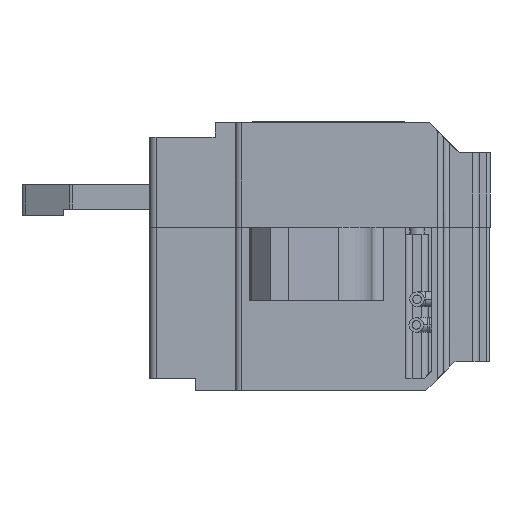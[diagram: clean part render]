
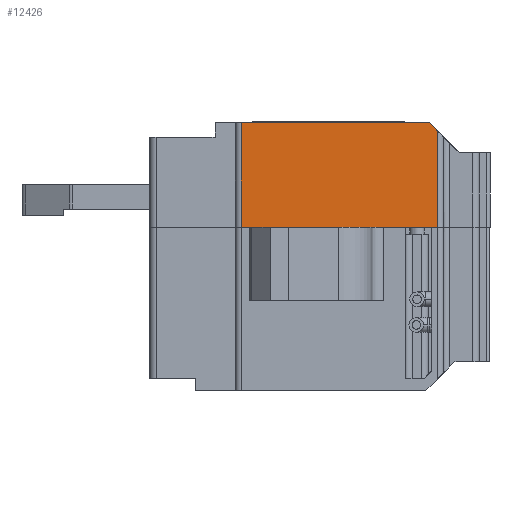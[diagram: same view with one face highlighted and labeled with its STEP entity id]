
A CAD part, left-side view. The second image highlights one B-rep face of the part: STEP entity #12426.
In plain terms, the highlighted planar face has unit normal (-1, 0, 0) as drawn and (1, 0, 0) by its records, which use the part's own axes.
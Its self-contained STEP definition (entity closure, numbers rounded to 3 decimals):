
#830 = EDGE_CURVE ( 'NONE', #3392, #2041, #14211, .T. ) ;
#1051 = VERTEX_POINT ( 'NONE', #1076 ) ;
#1076 = CARTESIAN_POINT ( 'NONE',  ( 31.5, -9.463, 8.6 ) ) ;
#1258 = CARTESIAN_POINT ( 'NONE',  ( 31.5, -1.663, 0. ) ) ;
#1499 = ORIENTED_EDGE ( 'NONE', *, *, #3156, .F. ) ;
#2007 = DIRECTION ( 'NONE',  ( 0., 1., 0. ) ) ;
#2041 = VERTEX_POINT ( 'NONE', #11148 ) ;
#2068 = CARTESIAN_POINT ( 'NONE',  ( 31.5, -9.631, 1.385 ) ) ;
#2087 = VECTOR ( 'NONE', #11727, 1000. ) ;
#2099 = EDGE_CURVE ( 'NONE', #2041, #3177, #14238, .T. ) ;
#2936 = ORIENTED_EDGE ( 'NONE', *, *, #5044, .T. ) ;
#3156 = EDGE_CURVE ( 'NONE', #5446, #1051, #18827, .T. ) ;
#3177 = VERTEX_POINT ( 'NONE', #9569 ) ;
#3299 = FACE_OUTER_BOUND ( 'NONE', #3565, .T. ) ;
#3392 = VERTEX_POINT ( 'NONE', #16008 ) ;
#3565 = EDGE_LOOP ( 'NONE', ( #1499, #12823, #13057, #5030, #9878, #14877, #10806, #2936, #18593 ) ) ;
#4024 = VERTEX_POINT ( 'NONE', #6619 ) ;
#4076 = LINE ( 'NONE', #2068, #11556 ) ;
#4316 = VERTEX_POINT ( 'NONE', #14680 ) ;
#4623 = EDGE_CURVE ( 'NONE', #4024, #18686, #14981, .T. ) ;
#4964 = DIRECTION ( 'NONE',  ( 0., 0.023, -1. ) ) ;
#5030 = ORIENTED_EDGE ( 'NONE', *, *, #4623, .T. ) ;
#5044 = EDGE_CURVE ( 'NONE', #3392, #6446, #15617, .T. ) ;
#5098 = CARTESIAN_POINT ( 'NONE',  ( 31.5, -1.663, 8.6 ) ) ;
#5251 = DIRECTION ( 'NONE',  ( 0., 1., 0. ) ) ;
#5446 = VERTEX_POINT ( 'NONE', #6989 ) ;
#5795 = VECTOR ( 'NONE', #5251, 1000. ) ;
#6446 = VERTEX_POINT ( 'NONE', #12406 ) ;
#6619 = CARTESIAN_POINT ( 'NONE',  ( 31.5, -17.56, 0. ) ) ;
#6849 = CARTESIAN_POINT ( 'NONE',  ( 31.5, -5.863, 11.1 ) ) ;
#6869 = DIRECTION ( 'NONE',  ( 1., 0., 0. ) ) ;
#6889 = VECTOR ( 'NONE', #7233, 1000. ) ;
#6989 = CARTESIAN_POINT ( 'NONE',  ( 31.5, -18.263, 8.6 ) ) ;
#7233 = DIRECTION ( 'NONE',  ( 0., 0., -1. ) ) ;
#7329 = VECTOR ( 'NONE', #2007, 1000. ) ;
#7613 = VECTOR ( 'NONE', #13884, 1000. ) ;
#8084 = LINE ( 'NONE', #18488, #7613 ) ;
#8371 = DIRECTION ( 'NONE',  ( 0., -1., 0. ) ) ;
#8644 = EDGE_CURVE ( 'NONE', #4024, #4316, #17710, .T. ) ;
#9569 = CARTESIAN_POINT ( 'NONE',  ( 31.5, -2.163, 8.6 ) ) ;
#9706 = VECTOR ( 'NONE', #14610, 1000. ) ;
#9827 = PLANE ( 'NONE',  #15944 ) ;
#9878 = ORIENTED_EDGE ( 'NONE', *, *, #13419, .T. ) ;
#10806 = ORIENTED_EDGE ( 'NONE', *, *, #830, .F. ) ;
#10893 = LINE ( 'NONE', #17667, #6889 ) ;
#11148 = CARTESIAN_POINT ( 'NONE',  ( 31.5, -5.863, 8.6 ) ) ;
#11214 = CARTESIAN_POINT ( 'NONE',  ( 31.5, -1.663, 8.6 ) ) ;
#11556 = VECTOR ( 'NONE', #14032, 1000. ) ;
#11727 = DIRECTION ( 'NONE',  ( 0., 1., 0. ) ) ;
#12406 = CARTESIAN_POINT ( 'NONE',  ( 31.5, -9.405, 11.1 ) ) ;
#12426 = ADVANCED_FACE ( 'NONE', ( #3299 ), #9827, .T. ) ;
#12823 = ORIENTED_EDGE ( 'NONE', *, *, #15393, .T. ) ;
#13057 = ORIENTED_EDGE ( 'NONE', *, *, #8644, .F. ) ;
#13419 = EDGE_CURVE ( 'NONE', #18686, #3177, #8084, .T. ) ;
#13722 = CARTESIAN_POINT ( 'NONE',  ( 31.5, -2.163, 0. ) ) ;
#13884 = DIRECTION ( 'NONE',  ( 0., 0., 1. ) ) ;
#14032 = DIRECTION ( 'NONE',  ( 0., 0.023, 1. ) ) ;
#14211 = LINE ( 'NONE', #17793, #17749 ) ;
#14238 = LINE ( 'NONE', #11214, #5795 ) ;
#14610 = DIRECTION ( 'NONE',  ( 0., -0.707, 0.707 ) ) ;
#14680 = CARTESIAN_POINT ( 'NONE',  ( 31.5, -18.263, 0.703 ) ) ;
#14877 = ORIENTED_EDGE ( 'NONE', *, *, #2099, .F. ) ;
#14981 = LINE ( 'NONE', #1258, #2087 ) ;
#15393 = EDGE_CURVE ( 'NONE', #5446, #4316, #10893, .T. ) ;
#15617 = LINE ( 'NONE', #6849, #19125 ) ;
#15752 = EDGE_CURVE ( 'NONE', #1051, #6446, #4076, .T. ) ;
#15865 = CARTESIAN_POINT ( 'NONE',  ( 31.5, -1.663, 1.2 ) ) ;
#15944 = AXIS2_PLACEMENT_3D ( 'NONE', #15865, #6869, #17380 ) ;
#16008 = CARTESIAN_POINT ( 'NONE',  ( 31.5, -5.921, 11.1 ) ) ;
#17380 = DIRECTION ( 'NONE',  ( 0., 0., -1. ) ) ;
#17667 = CARTESIAN_POINT ( 'NONE',  ( 31.5, -18.263, 1.203 ) ) ;
#17710 = LINE ( 'NONE', #19058, #9706 ) ;
#17749 = VECTOR ( 'NONE', #4964, 1000. ) ;
#17793 = CARTESIAN_POINT ( 'NONE',  ( 31.5, -5.688, 1.106 ) ) ;
#18488 = CARTESIAN_POINT ( 'NONE',  ( 31.5, -2.163, 1.2 ) ) ;
#18593 = ORIENTED_EDGE ( 'NONE', *, *, #15752, .F. ) ;
#18686 = VERTEX_POINT ( 'NONE', #13722 ) ;
#18827 = LINE ( 'NONE', #5098, #7329 ) ;
#19058 = CARTESIAN_POINT ( 'NONE',  ( 31.5, -10.211, -7.349 ) ) ;
#19125 = VECTOR ( 'NONE', #8371, 1000. ) ;
